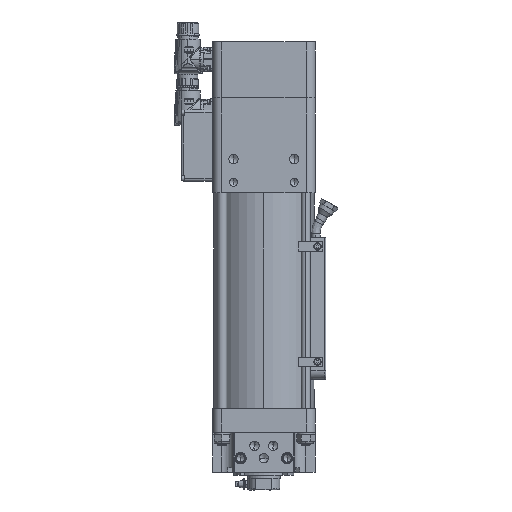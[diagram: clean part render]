
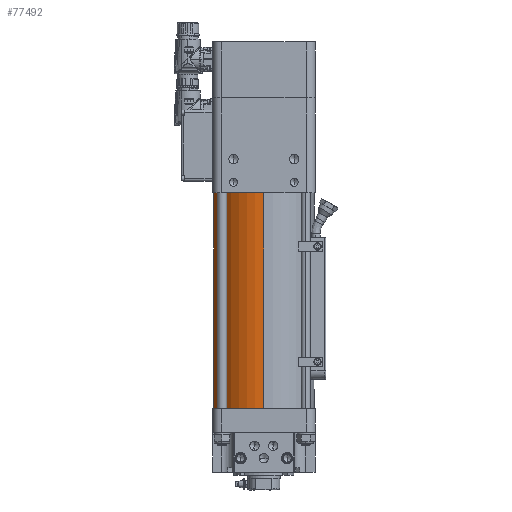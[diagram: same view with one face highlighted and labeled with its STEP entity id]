
A CAD part, left-side view. The second image highlights one B-rep face of the part: STEP entity #77492.
In plain terms, the highlighted cylindrical face has radius 53.975 mm (diameter 107.95 mm), a partial arc.
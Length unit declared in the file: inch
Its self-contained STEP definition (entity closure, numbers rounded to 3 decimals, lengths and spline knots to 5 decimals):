
#1586 = AXIS2_PLACEMENT_3D ( 'NONE', #55733, #24178, #107598 ) ;
#2072 = DIRECTION ( 'NONE',  ( 0., 0., -1. ) ) ;
#4440 = EDGE_LOOP ( 'NONE', ( #46730, #117072, #111033, #90049 ) ) ;
#11799 = EDGE_CURVE ( 'NONE', #16973, #114779, #39700, .T. ) ;
#16662 = AXIS2_PLACEMENT_3D ( 'NONE', #138398, #85145, #83068 ) ;
#16973 = VERTEX_POINT ( 'NONE', #125921 ) ;
#17683 = LINE ( 'NONE', #134032, #119622 ) ;
#21175 = CIRCLE ( 'NONE', #16662, 2.125 ) ;
#24178 = DIRECTION ( 'NONE',  ( 0., 0., -1. ) ) ;
#25851 = CARTESIAN_POINT ( 'NONE',  ( 0., 0., 0.01 ) ) ;
#28687 = AXIS2_PLACEMENT_3D ( 'NONE', #25851, #2072, #77054 ) ;
#31621 = CARTESIAN_POINT ( 'NONE',  ( 2.125, 0., 0.01 ) ) ;
#37119 = EDGE_CURVE ( 'NONE', #58773, #107855, #21175, .T. ) ;
#39700 = CIRCLE ( 'NONE', #1586, 2.125 ) ;
#46097 = CARTESIAN_POINT ( 'NONE',  ( 2.125, 0., -9.128 ) ) ;
#46730 = ORIENTED_EDGE ( 'NONE', *, *, #11799, .T. ) ;
#54641 = FACE_OUTER_BOUND ( 'NONE', #4440, .T. ) ;
#55733 = CARTESIAN_POINT ( 'NONE',  ( 0., 0., -0.01 ) ) ;
#58773 = VERTEX_POINT ( 'NONE', #73583 ) ;
#71652 = DIRECTION ( 'NONE',  ( 0., 0., -1. ) ) ;
#73583 = CARTESIAN_POINT ( 'NONE',  ( -2.125, 0., -9.128 ) ) ;
#77054 = DIRECTION ( 'NONE',  ( -1., 0., 0. ) ) ;
#77492 = ADVANCED_FACE ( 'NONE', ( #54641 ), #131676, .T. ) ;
#83068 = DIRECTION ( 'NONE',  ( 1., 0., 0. ) ) ;
#84905 = LINE ( 'NONE', #31621, #93105 ) ;
#85145 = DIRECTION ( 'NONE',  ( 0., 0., -1. ) ) ;
#88715 = EDGE_CURVE ( 'NONE', #16973, #58773, #17683, .T. ) ;
#90049 = ORIENTED_EDGE ( 'NONE', *, *, #88715, .F. ) ;
#93105 = VECTOR ( 'NONE', #94689, 39.37008 ) ;
#94689 = DIRECTION ( 'NONE',  ( 0., 0., -1. ) ) ;
#107598 = DIRECTION ( 'NONE',  ( -1., 0., 0. ) ) ;
#107855 = VERTEX_POINT ( 'NONE', #46097 ) ;
#109030 = EDGE_CURVE ( 'NONE', #114779, #107855, #84905, .T. ) ;
#111033 = ORIENTED_EDGE ( 'NONE', *, *, #37119, .F. ) ;
#114779 = VERTEX_POINT ( 'NONE', #123146 ) ;
#117072 = ORIENTED_EDGE ( 'NONE', *, *, #109030, .T. ) ;
#119622 = VECTOR ( 'NONE', #71652, 39.37008 ) ;
#123146 = CARTESIAN_POINT ( 'NONE',  ( 2.125, 0., -0.01 ) ) ;
#125921 = CARTESIAN_POINT ( 'NONE',  ( -2.125, 0., -0.01 ) ) ;
#131676 = CYLINDRICAL_SURFACE ( 'NONE', #28687, 2.125 ) ;
#134032 = CARTESIAN_POINT ( 'NONE',  ( -2.125, 0., 0.01 ) ) ;
#138398 = CARTESIAN_POINT ( 'NONE',  ( 0., 0., -9.128 ) ) ;
